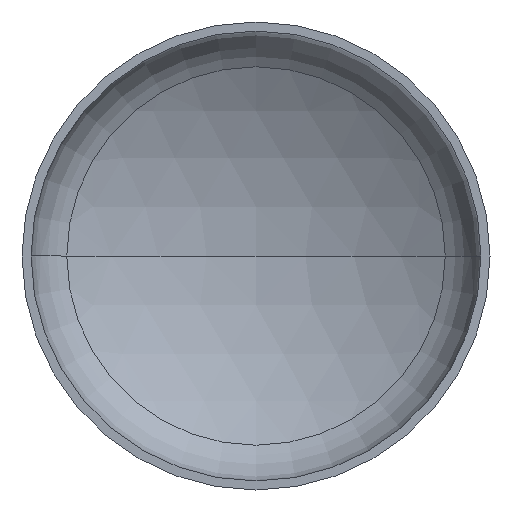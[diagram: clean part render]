
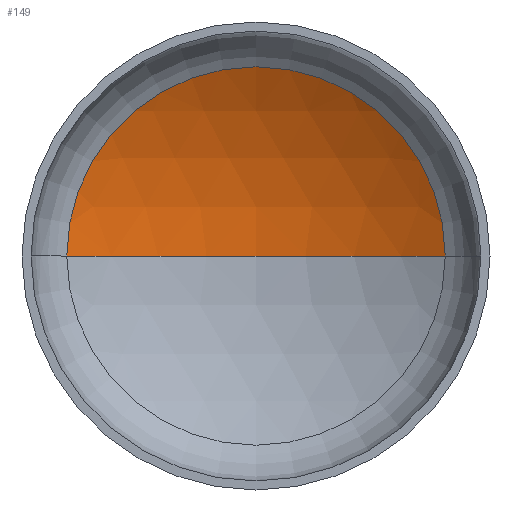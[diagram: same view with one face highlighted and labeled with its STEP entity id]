
A CAD part, front view. The second image highlights one B-rep face of the part: STEP entity #149.
In plain terms, the highlighted spherical face has radius 2880 mm.
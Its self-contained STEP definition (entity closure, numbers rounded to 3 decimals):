
#5 = AXIS2_PLACEMENT_3D ( 'NONE', #358, #264, #160 ) ;
#21 = CARTESIAN_POINT ( 'NONE',  ( 0., -1886.24, 0. ) ) ;
#24 = CARTESIAN_POINT ( 'NONE',  ( 0., 993.76, 0. ) ) ;
#29 = EDGE_LOOP ( 'NONE', ( #147, #101, #46 ) ) ;
#32 = AXIS2_PLACEMENT_3D ( 'NONE', #21, #180, #127 ) ;
#41 = AXIS2_PLACEMENT_3D ( 'NONE', #181, #183, #378 ) ;
#44 = AXIS2_PLACEMENT_3D ( 'NONE', #205, #199, #194 ) ;
#46 = ORIENTED_EDGE ( 'NONE', *, *, #82, .T. ) ;
#82 = EDGE_CURVE ( 'NONE', #97, #115, #323, .T. ) ;
#92 = EDGE_CURVE ( 'NONE', #109, #97, #258, .T. ) ;
#97 = VERTEX_POINT ( 'NONE', #260 ) ;
#101 = ORIENTED_EDGE ( 'NONE', *, *, #92, .T. ) ;
#109 = VERTEX_POINT ( 'NONE', #24 ) ;
#115 = VERTEX_POINT ( 'NONE', #330 ) ;
#127 = DIRECTION ( 'NONE',  ( -1., 0., 0. ) ) ;
#147 = ORIENTED_EDGE ( 'NONE', *, *, #354, .F. ) ;
#149 = ADVANCED_FACE ( 'NONE', ( #316 ), #252, .F. ) ;
#160 = DIRECTION ( 'NONE',  ( 1., 0., 0. ) ) ;
#170 = CIRCLE ( 'NONE', #5, 2880. ) ;
#180 = DIRECTION ( 'NONE',  ( 0., 0., -1. ) ) ;
#181 = CARTESIAN_POINT ( 'NONE',  ( 0., -1886.24, 0. ) ) ;
#183 = DIRECTION ( 'NONE',  ( 0., 0., -1. ) ) ;
#194 = DIRECTION ( 'NONE',  ( 1., 0., 0. ) ) ;
#199 = DIRECTION ( 'NONE',  ( 0., -1., 0. ) ) ;
#205 = CARTESIAN_POINT ( 'NONE',  ( 0., 598.909, 0. ) ) ;
#252 = SPHERICAL_SURFACE ( 'NONE', #32, 2880. ) ;
#258 = CIRCLE ( 'NONE', #41, 2880. ) ;
#260 = CARTESIAN_POINT ( 'NONE',  ( 1455.484, 598.909, 0. ) ) ;
#264 = DIRECTION ( 'NONE',  ( 0., 0., 1. ) ) ;
#316 = FACE_OUTER_BOUND ( 'NONE', #29, .T. ) ;
#323 = CIRCLE ( 'NONE', #44, 1455.484 ) ;
#330 = CARTESIAN_POINT ( 'NONE',  ( -1455.484, 598.909, 0. ) ) ;
#354 = EDGE_CURVE ( 'NONE', #109, #115, #170, .T. ) ;
#358 = CARTESIAN_POINT ( 'NONE',  ( 0., -1886.24, 0. ) ) ;
#378 = DIRECTION ( 'NONE',  ( -1., 0., 0. ) ) ;
